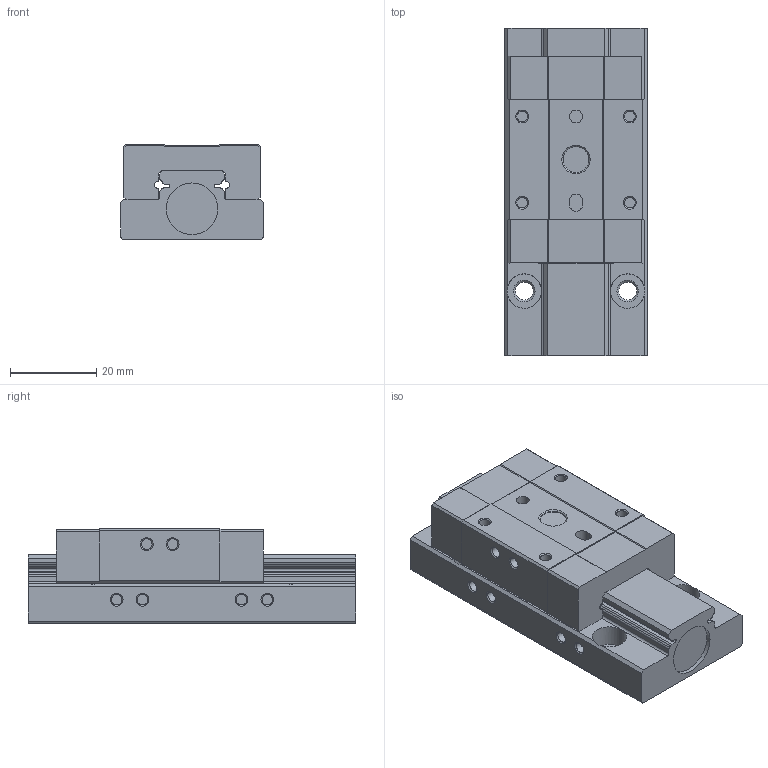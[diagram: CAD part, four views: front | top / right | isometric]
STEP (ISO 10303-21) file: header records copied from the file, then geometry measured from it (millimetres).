
FILE_DESCRIPTION(/* description */ ('STEP AP214'),/* implementation_level */ '2;1');
FILE_NAME(/* name */ 'HGS12X15(0)',/* time_stamp */ '2024-09-22T10:28:02+02:00',/* author */ ('License CC BY-ND 4.0'),/* organization */ ('CADENAS'),/* preprocessor_version */ 'ST-DEVELOPER v19.3',/* originating_system */ 'PARTsolutions',/* authorisation */ ' ');
FILE_SCHEMA (('AUTOMOTIVE_DESIGN {1 0 10303 214 3 1 1}'));
Length unit declared in the file: millimetre
Products named in the file (4): HGS12X15(0); HGS12X15(0)_dummy; HGS12X15(0)_body; HGS12X15(0)_t
Assembly tree (3 placements, depth 2):
  HGS12X15(0)
    HGS12X15(0)_dummy
    HGS12X15(0)_body
    HGS12X15(0)_t
Bounding box: 33 x 76 x 22 mm (x, y, z)
Volume: 41040.4 mm3; surface area: 16341.9 mm2
Topology: 2 solids, 2 shells, 190 faces, 452 edges, 293 vertices
Faces by surface type: plane 102, cylinder 64, cone 24
Full cylindrical faces by diameter (mm): 2.459 x16, 3 x2, 4.134 x6, 6 x2, 8 x4, 12 x2
Entity records: 5294 total; most frequent: DIRECTION 940, CARTESIAN_POINT 875, ORIENTED_EDGE 784, EDGE_CURVE 392, AXIS2_PLACEMENT_3D 354, VERTEX_POINT 288, EDGE_LOOP 282, FACE_BOUND 282
